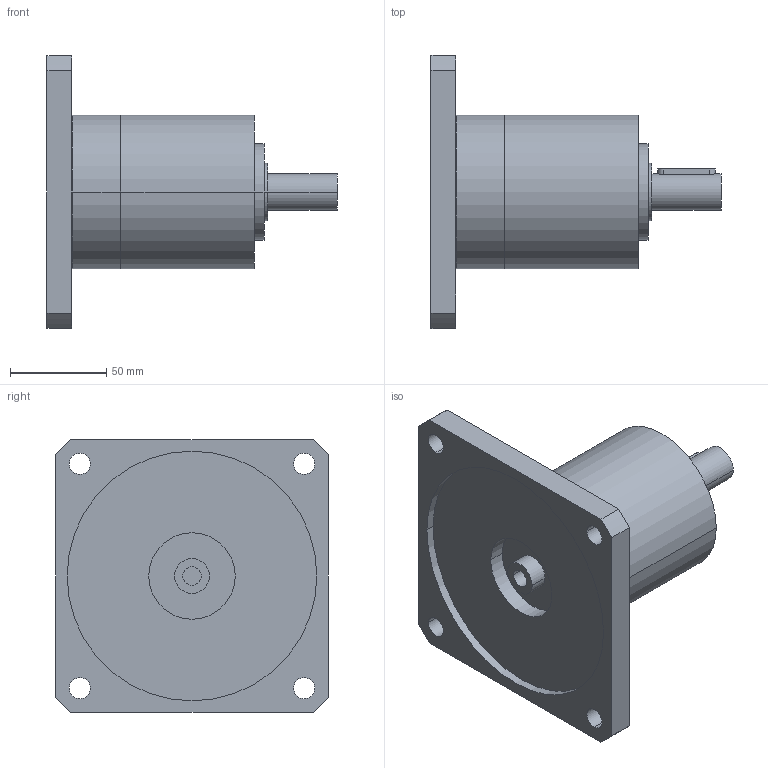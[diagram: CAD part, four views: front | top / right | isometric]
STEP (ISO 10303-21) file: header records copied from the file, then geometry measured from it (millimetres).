
FILE_DESCRIPTION(('CoCreate Modeling STEP Export'),'2;1');
FILE_NAME('GPR100_ig-3-4-5-6_19_B14_9.52_P16.stp','2014-08-26T10:09:44',(''),(''),'CoCreate Modeling STEP processor for AP214 (Solid Model)','CoCreate Modeling 16.00C 25-Feb-2009 (C) Parametric Technology GmbH','');
FILE_SCHEMA(('AUTOMOTIVE_DESIGN { 1 0 10303 214 1 1 1 1 }'));
Length unit declared in the file: millimetre
Products named in the file (2): GPR100_ig-3-4-5-6_19_B14_9.52_P16
Assembly tree (1 placements, depth 2):
  GPR100_ig-3-4-5-6_19_B14_9.52_P16
    GPR100_ig-3-4-5-6_19_B14_9.52_P16
Bounding box: 151 x 142 x 142 mm (x, y, z)
Volume: 679921.2 mm3; surface area: 81669.1 mm2
Topology: 1 solids, 1 shells, 70 faces, 185 edges, 129 vertices
Faces by surface type: cylinder 42, plane 22, cone 6
Entity records: 1924 total; most frequent: ORIENTED_EDGE 366, CARTESIAN_POINT 357, DIRECTION 262, EDGE_CURVE 183, VERTEX_POINT 129, AXIS2_PLACEMENT_3D 98, EDGE_LOOP 92, FACE_OUTER_BOUND 70
